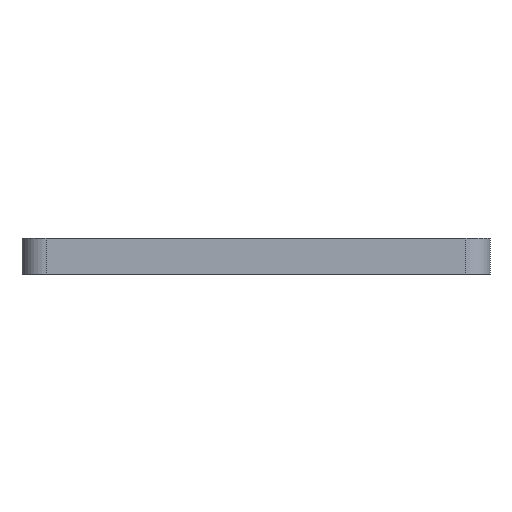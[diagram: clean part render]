
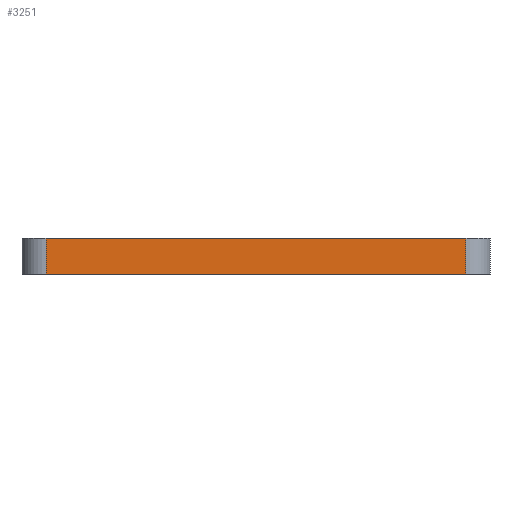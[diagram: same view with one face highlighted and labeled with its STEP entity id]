
A CAD part, left-side view. The second image highlights one B-rep face of the part: STEP entity #3251.
In plain terms, the highlighted planar face has unit normal (-1, 0, 0).
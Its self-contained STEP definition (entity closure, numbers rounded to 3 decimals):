
#784 = PLANE('',#785);
#785 = AXIS2_PLACEMENT_3D('',#786,#787,#788);
#786 = CARTESIAN_POINT('',(43.,-17.5,12.));
#787 = DIRECTION('',(0.,0.,1.));
#788 = DIRECTION('',(1.,0.,-0.));
#1182 = CYLINDRICAL_SURFACE('',#1183,2.);
#1183 = AXIS2_PLACEMENT_3D('',#1184,#1185,#1186);
#1184 = CARTESIAN_POINT('',(45.,17.5,9.));
#1185 = DIRECTION('',(0.,0.,1.));
#1186 = DIRECTION('',(1.,0.,-0.));
#1291 = PLANE('',#1292);
#1292 = AXIS2_PLACEMENT_3D('',#1293,#1294,#1295);
#1293 = CARTESIAN_POINT('',(43.,-17.5,9.));
#1294 = DIRECTION('',(0.,0.,1.));
#1295 = DIRECTION('',(1.,0.,-0.));
#2040 = VERTEX_POINT('',#2041);
#2041 = CARTESIAN_POINT('',(43.,17.5,12.));
#2063 = EDGE_CURVE('',#2064,#2040,#2066,.T.);
#2064 = VERTEX_POINT('',#2065);
#2065 = CARTESIAN_POINT('',(43.,-17.5,12.));
#2066 = SURFACE_CURVE('',#2067,(#2071,#2078),.PCURVE_S1.);
#2067 = LINE('',#2068,#2069);
#2068 = CARTESIAN_POINT('',(43.,-17.5,12.));
#2069 = VECTOR('',#2070,1.);
#2070 = DIRECTION('',(-0.,1.,0.));
#2071 = PCURVE('',#784,#2072);
#2072 = DEFINITIONAL_REPRESENTATION('',(#2073),#2077);
#2073 = LINE('',#2074,#2075);
#2074 = CARTESIAN_POINT('',(0.,0.));
#2075 = VECTOR('',#2076,1.);
#2076 = DIRECTION('',(0.,1.));
#2077 = ( GEOMETRIC_REPRESENTATION_CONTEXT(2) 
PARAMETRIC_REPRESENTATION_CONTEXT() REPRESENTATION_CONTEXT('2D SPACE',''
  ) );
#2078 = PCURVE('',#2079,#2084);
#2079 = PLANE('',#2080);
#2080 = AXIS2_PLACEMENT_3D('',#2081,#2082,#2083);
#2081 = CARTESIAN_POINT('',(43.,-17.5,9.));
#2082 = DIRECTION('',(1.,0.,-0.));
#2083 = DIRECTION('',(0.,0.,1.));
#2084 = DEFINITIONAL_REPRESENTATION('',(#2085),#2089);
#2085 = LINE('',#2086,#2087);
#2086 = CARTESIAN_POINT('',(3.,0.));
#2087 = VECTOR('',#2088,1.);
#2088 = DIRECTION('',(0.,-1.));
#2089 = ( GEOMETRIC_REPRESENTATION_CONTEXT(2) 
PARAMETRIC_REPRESENTATION_CONTEXT() REPRESENTATION_CONTEXT('2D SPACE',''
  ) );
#2544 = VERTEX_POINT('',#2545);
#2545 = CARTESIAN_POINT('',(43.,17.5,9.));
#2572 = EDGE_CURVE('',#2544,#2040,#2573,.T.);
#2573 = SURFACE_CURVE('',#2574,(#2578,#2585),.PCURVE_S1.);
#2574 = LINE('',#2575,#2576);
#2575 = CARTESIAN_POINT('',(43.,17.5,9.));
#2576 = VECTOR('',#2577,1.);
#2577 = DIRECTION('',(0.,0.,1.));
#2578 = PCURVE('',#1182,#2579);
#2579 = DEFINITIONAL_REPRESENTATION('',(#2580),#2584);
#2580 = LINE('',#2581,#2582);
#2581 = CARTESIAN_POINT('',(3.142,0.));
#2582 = VECTOR('',#2583,1.);
#2583 = DIRECTION('',(0.,1.));
#2584 = ( GEOMETRIC_REPRESENTATION_CONTEXT(2) 
PARAMETRIC_REPRESENTATION_CONTEXT() REPRESENTATION_CONTEXT('2D SPACE',''
  ) );
#2585 = PCURVE('',#2079,#2586);
#2586 = DEFINITIONAL_REPRESENTATION('',(#2587),#2591);
#2587 = LINE('',#2588,#2589);
#2588 = CARTESIAN_POINT('',(0.,-35.));
#2589 = VECTOR('',#2590,1.);
#2590 = DIRECTION('',(1.,0.));
#2591 = ( GEOMETRIC_REPRESENTATION_CONTEXT(2) 
PARAMETRIC_REPRESENTATION_CONTEXT() REPRESENTATION_CONTEXT('2D SPACE',''
  ) );
#2669 = EDGE_CURVE('',#2670,#2544,#2672,.T.);
#2670 = VERTEX_POINT('',#2671);
#2671 = CARTESIAN_POINT('',(43.,-17.5,9.));
#2672 = SURFACE_CURVE('',#2673,(#2677,#2684),.PCURVE_S1.);
#2673 = LINE('',#2674,#2675);
#2674 = CARTESIAN_POINT('',(43.,-17.5,9.));
#2675 = VECTOR('',#2676,1.);
#2676 = DIRECTION('',(-0.,1.,0.));
#2677 = PCURVE('',#1291,#2678);
#2678 = DEFINITIONAL_REPRESENTATION('',(#2679),#2683);
#2679 = LINE('',#2680,#2681);
#2680 = CARTESIAN_POINT('',(0.,0.));
#2681 = VECTOR('',#2682,1.);
#2682 = DIRECTION('',(0.,1.));
#2683 = ( GEOMETRIC_REPRESENTATION_CONTEXT(2) 
PARAMETRIC_REPRESENTATION_CONTEXT() REPRESENTATION_CONTEXT('2D SPACE',''
  ) );
#2684 = PCURVE('',#2079,#2685);
#2685 = DEFINITIONAL_REPRESENTATION('',(#2686),#2690);
#2686 = LINE('',#2687,#2688);
#2687 = CARTESIAN_POINT('',(0.,0.));
#2688 = VECTOR('',#2689,1.);
#2689 = DIRECTION('',(0.,-1.));
#2690 = ( GEOMETRIC_REPRESENTATION_CONTEXT(2) 
PARAMETRIC_REPRESENTATION_CONTEXT() REPRESENTATION_CONTEXT('2D SPACE',''
  ) );
#3251 = ADVANCED_FACE('',(#3252),#2079,.F.);
#3252 = FACE_BOUND('',#3253,.F.);
#3253 = EDGE_LOOP('',(#3254,#3280,#3281,#3282));
#3254 = ORIENTED_EDGE('',*,*,#3255,.F.);
#3255 = EDGE_CURVE('',#2670,#2064,#3256,.T.);
#3256 = SURFACE_CURVE('',#3257,(#3261,#3268),.PCURVE_S1.);
#3257 = LINE('',#3258,#3259);
#3258 = CARTESIAN_POINT('',(43.,-17.5,9.));
#3259 = VECTOR('',#3260,1.);
#3260 = DIRECTION('',(0.,0.,1.));
#3261 = PCURVE('',#2079,#3262);
#3262 = DEFINITIONAL_REPRESENTATION('',(#3263),#3267);
#3263 = LINE('',#3264,#3265);
#3264 = CARTESIAN_POINT('',(0.,0.));
#3265 = VECTOR('',#3266,1.);
#3266 = DIRECTION('',(1.,0.));
#3267 = ( GEOMETRIC_REPRESENTATION_CONTEXT(2) 
PARAMETRIC_REPRESENTATION_CONTEXT() REPRESENTATION_CONTEXT('2D SPACE',''
  ) );
#3268 = PCURVE('',#3269,#3274);
#3269 = CYLINDRICAL_SURFACE('',#3270,2.);
#3270 = AXIS2_PLACEMENT_3D('',#3271,#3272,#3273);
#3271 = CARTESIAN_POINT('',(45.,-17.5,9.));
#3272 = DIRECTION('',(0.,0.,1.));
#3273 = DIRECTION('',(1.,0.,-0.));
#3274 = DEFINITIONAL_REPRESENTATION('',(#3275),#3279);
#3275 = LINE('',#3276,#3277);
#3276 = CARTESIAN_POINT('',(3.142,0.));
#3277 = VECTOR('',#3278,1.);
#3278 = DIRECTION('',(0.,1.));
#3279 = ( GEOMETRIC_REPRESENTATION_CONTEXT(2) 
PARAMETRIC_REPRESENTATION_CONTEXT() REPRESENTATION_CONTEXT('2D SPACE',''
  ) );
#3280 = ORIENTED_EDGE('',*,*,#2669,.T.);
#3281 = ORIENTED_EDGE('',*,*,#2572,.T.);
#3282 = ORIENTED_EDGE('',*,*,#2063,.F.);
